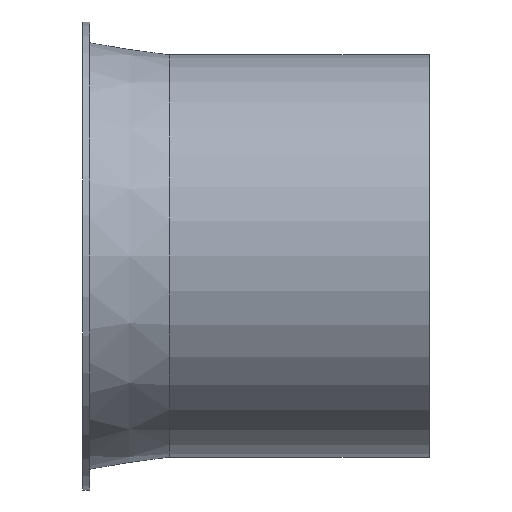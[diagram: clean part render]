
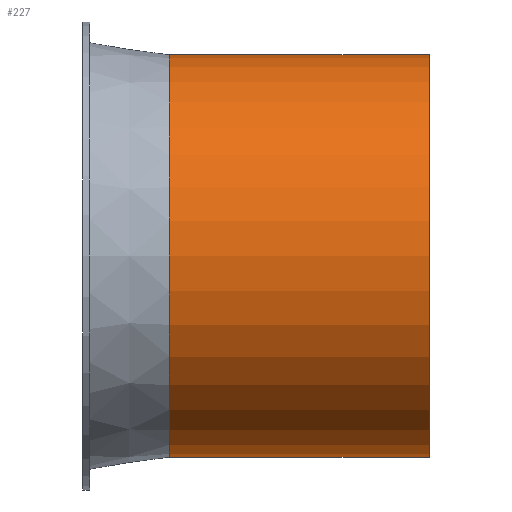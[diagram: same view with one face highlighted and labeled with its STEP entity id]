
A CAD part, front view. The second image highlights one B-rep face of the part: STEP entity #227.
In plain terms, the highlighted cylindrical face has radius 58 mm (diameter 116 mm), a full revolution.
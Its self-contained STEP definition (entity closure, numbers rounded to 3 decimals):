
#132=CARTESIAN_POINT('',(-2.081,46.334,0.0));
#133=VERTEX_POINT('',#132);
#134=CARTESIAN_POINT('',(-2.081,104.334,0.0));
#135=DIRECTION('',(-1.0,0.0,0.0));
#136=DIRECTION('',(0.0,-1.0,0.0));
#137=AXIS2_PLACEMENT_3D('',#134,#135,#136);
#138=CIRCLE('',#137,58.);
#139=EDGE_CURVE('',#133,#133,#138,.T.);
#201=CARTESIAN_POINT('',(72.919,46.334,0.0));
#202=VERTEX_POINT('',#201);
#203=CARTESIAN_POINT('',(72.919,104.334,0.0));
#204=DIRECTION('',(-1.0,0.0,0.0));
#205=DIRECTION('',(0.0,-1.0,0.0));
#206=AXIS2_PLACEMENT_3D('',#203,#204,#205);
#207=CIRCLE('',#206,58.);
#208=EDGE_CURVE('',#202,#202,#207,.T.);
#216=CARTESIAN_POINT('',(35.419,104.334,0.0));
#217=DIRECTION('',(-1.0,0.,0.0));
#218=DIRECTION('',(0.0,-1.0,0.0));
#219=AXIS2_PLACEMENT_3D('',#216,#217,#218);
#220=CYLINDRICAL_SURFACE('',#219,58.);
#221=ORIENTED_EDGE('',*,*,#139,.F.);
#222=EDGE_LOOP('',(#221));
#223=FACE_OUTER_BOUND('',#222,.T.);
#224=ORIENTED_EDGE('',*,*,#208,.T.);
#225=EDGE_LOOP('',(#224));
#226=FACE_BOUND('',#225,.T.);
#227=ADVANCED_FACE('',(#223,#226),#220,.T.);
